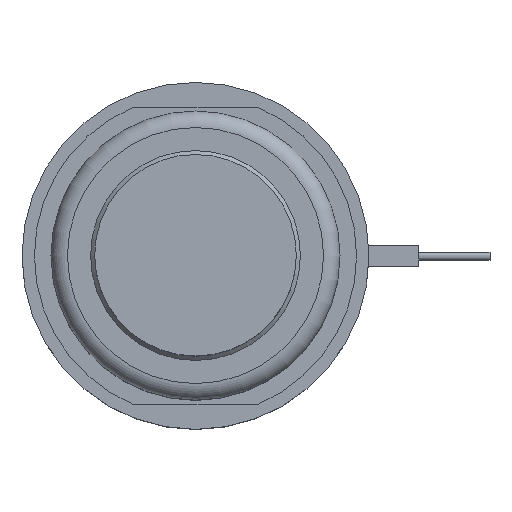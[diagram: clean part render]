
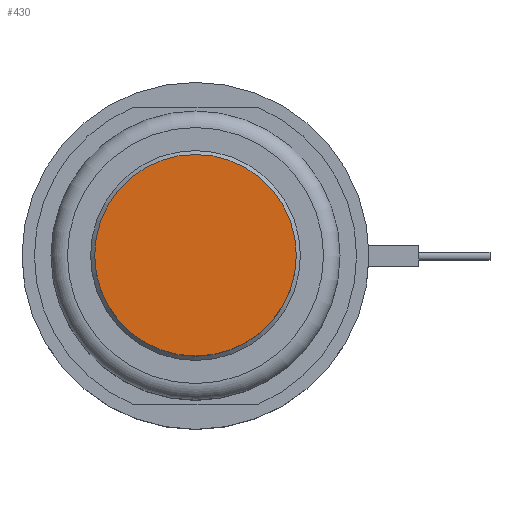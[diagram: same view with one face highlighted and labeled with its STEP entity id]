
A CAD part, top view. The second image highlights one B-rep face of the part: STEP entity #430.
In plain terms, the highlighted planar face has unit normal (0, 0, 1).
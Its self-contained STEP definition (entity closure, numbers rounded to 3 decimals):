
#262=PLANE('',#1501);
#327=FACE_OUTER_BOUND('',#697,.T.);
#430=ADVANCED_FACE('',(#327),#262,.F.);
#697=EDGE_LOOP('',(#945));
#945=ORIENTED_EDGE('',*,*,#1242,.F.);
#1107=VERTEX_POINT('',#2374);
#1242=EDGE_CURVE('',#1107,#1107,#1348,.T.);
#1348=CIRCLE('',#1500,12.2);
#1500=AXIS2_PLACEMENT_3D('',#2373,#1846,#1847);
#1501=AXIS2_PLACEMENT_3D('',#2375,#1848,#1849);
#1846=DIRECTION('',(0.,0.,-1.));
#1847=DIRECTION('',(-1.,0.,0.));
#1848=DIRECTION('',(0.,0.,-1.));
#1849=DIRECTION('',(-1.,0.,0.));
#2373=CARTESIAN_POINT('',(0.,0.,18.));
#2374=CARTESIAN_POINT('',(-12.2,0.,18.));
#2375=CARTESIAN_POINT('',(0.,0.,18.));
